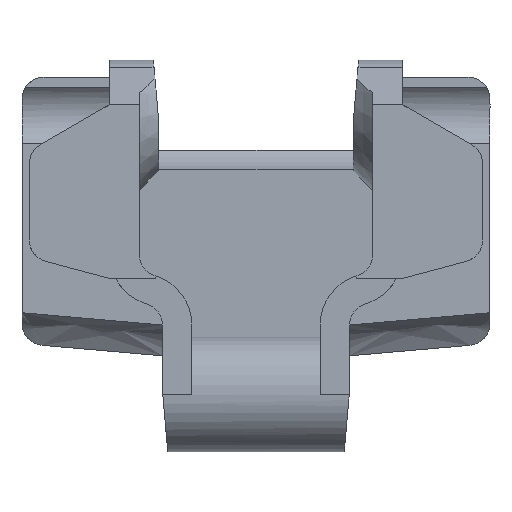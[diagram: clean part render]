
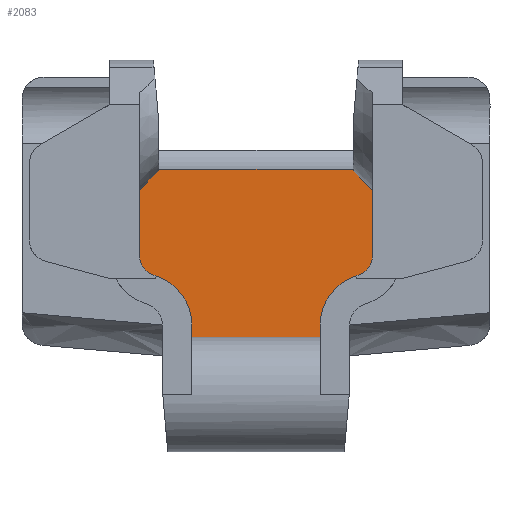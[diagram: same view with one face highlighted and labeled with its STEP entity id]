
A CAD part, front view. The second image highlights one B-rep face of the part: STEP entity #2083.
In plain terms, the highlighted planar face has unit normal (0, -1, 0).
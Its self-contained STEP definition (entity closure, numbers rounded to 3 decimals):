
#64 = VERTEX_POINT ( 'NONE', #2393 ) ;
#67 = VERTEX_POINT ( 'NONE', #2411 ) ;
#68 = EDGE_CURVE ( 'NONE', #64, #67, #2375, .T. ) ;
#147 = VERTEX_POINT ( 'NONE', #2688 ) ;
#148 = VERTEX_POINT ( 'NONE', #2802 ) ;
#152 = EDGE_CURVE ( 'NONE', #147, #148, #2797, .T. ) ;
#1419 = AXIS2_PLACEMENT_3D ( 'NONE', #1488, #1487, #1486 ) ;
#1420 = AXIS2_PLACEMENT_3D ( 'NONE', #1485, #1484, #1483 ) ;
#1422 = DIRECTION ( 'NONE',  ( 0., 0., 1. ) ) ;
#1423 = VECTOR ( 'NONE', #1422, 1000. ) ;
#1424 = CARTESIAN_POINT ( 'NONE',  ( 13.7, -4., 23.889 ) ) ;
#1426 = CARTESIAN_POINT ( 'NONE',  ( -15.842, -4., 26.764 ) ) ;
#1427 = CARTESIAN_POINT ( 'NONE',  ( 8.7, -4., 17.181 ) ) ;
#1431 = CARTESIAN_POINT ( 'NONE',  ( -15.842, -4., 26.764 ) ) ;
#1432 = CARTESIAN_POINT ( 'NONE',  ( -13.7, -4., 23.889 ) ) ;
#1433 = CARTESIAN_POINT ( 'NONE',  ( -15.842, -4., 36.083 ) ) ;
#1434 = CIRCLE ( 'NONE', #1419, 3. ) ;
#1435 = LINE ( 'NONE', #1426, #1423 ) ;
#1436 = DIRECTION ( 'NONE',  ( 0., 0., 1. ) ) ;
#1437 = VECTOR ( 'NONE', #1436, 1000. ) ;
#1438 = CARTESIAN_POINT ( 'NONE',  ( 13.2, -4., 41.91 ) ) ;
#1439 = CIRCLE ( 'NONE', #1420, 7. ) ;
#1443 = LINE ( 'NONE', #1438, #1437 ) ;
#1483 = DIRECTION ( 'NONE',  ( 0., 0., -1. ) ) ;
#1484 = DIRECTION ( 'NONE',  ( 0., -1., 0. ) ) ;
#1485 = CARTESIAN_POINT ( 'NONE',  ( -15.7, -4., 17.181 ) ) ;
#1486 = DIRECTION ( 'NONE',  ( 0., 0., -1. ) ) ;
#1487 = DIRECTION ( 'NONE',  ( 0., 1., 0. ) ) ;
#1488 = CARTESIAN_POINT ( 'NONE',  ( -12.842, -4., 26.764 ) ) ;
#1833 = DIRECTION ( 'NONE',  ( 1., 0., 0. ) ) ;
#1834 = VECTOR ( 'NONE', #1833, 1000. ) ;
#1838 = CARTESIAN_POINT ( 'NONE',  ( 13.2, -4., 38.967 ) ) ;
#1843 = CARTESIAN_POINT ( 'NONE',  ( 500000., -4., 38.967 ) ) ;
#1844 = LINE ( 'NONE', #1843, #1834 ) ;
#1898 = CARTESIAN_POINT ( 'NONE',  ( -15.842, -4., 36.083 ) ) ;
#1899 = CARTESIAN_POINT ( 'NONE',  ( -14.951, -4., 37.033 ) ) ;
#1900 = CARTESIAN_POINT ( 'NONE',  ( -14.066, -4., 37.99 ) ) ;
#1901 = CARTESIAN_POINT ( 'NONE',  ( -13.202, -4., 38.967 ) ) ;
#1903 = B_SPLINE_CURVE_WITH_KNOTS ( 'NONE', 3,
 ( #1901, #1900, #1899, #1898 ),
 .UNSPECIFIED., .F., .F.,
 ( 4, 4 ),
 ( 0., 0.004 ),
 .UNSPECIFIED. ) ;
#1904 = CARTESIAN_POINT ( 'NONE',  ( 13.202, -4., 38.967 ) ) ;
#1915 = DIRECTION ( 'NONE',  ( 0., 0., -1. ) ) ;
#1916 = VECTOR ( 'NONE', #1915, 1000. ) ;
#1917 = CARTESIAN_POINT ( 'NONE',  ( -13.2, -4., 41.91 ) ) ;
#1918 = DIRECTION ( 'NONE',  ( 1., 0., 0. ) ) ;
#1919 = VECTOR ( 'NONE', #1918, 1000. ) ;
#1920 = CARTESIAN_POINT ( 'NONE',  ( -13.2, -4., 38.332 ) ) ;
#1924 = CARTESIAN_POINT ( 'NONE',  ( -13.2, -4., 38.332 ) ) ;
#1925 = CARTESIAN_POINT ( 'NONE',  ( 13.202, -4., 38.967 ) ) ;
#1926 = CARTESIAN_POINT ( 'NONE',  ( 14.066, -4., 37.99 ) ) ;
#1927 = CARTESIAN_POINT ( 'NONE',  ( 14.951, -4., 37.033 ) ) ;
#1928 = CARTESIAN_POINT ( 'NONE',  ( 15.842, -4., 36.083 ) ) ;
#1940 = LINE ( 'NONE', #1920, #1919 ) ;
#1942 = B_SPLINE_CURVE_WITH_KNOTS ( 'NONE', 3,
 ( #1928, #1927, #1926, #1925 ),
 .UNSPECIFIED., .F., .F.,
 ( 4, 4 ),
 ( 0., 0.004 ),
 .UNSPECIFIED. ) ;
#1943 = CARTESIAN_POINT ( 'NONE',  ( 15.842, -4., 36.083 ) ) ;
#1947 = LINE ( 'NONE', #1917, #1916 ) ;
#1955 = CARTESIAN_POINT ( 'NONE',  ( -8.7, -4., 17.181 ) ) ;
#2072 = EDGE_CURVE ( 'NONE', #2322, #2084, #2921, .T. ) ;
#2081 = ORIENTED_EDGE ( 'NONE', *, *, #2362, .F. ) ;
#2082 = ORIENTED_EDGE ( 'NONE', *, *, #2331, .F. ) ;
#2083 = ADVANCED_FACE ( 'NONE', ( #2963 ), #2895, .T. ) ;
#2084 = VERTEX_POINT ( 'NONE', #2894 ) ;
#2151 = ORIENTED_EDGE ( 'NONE', *, *, #2152, .F. ) ;
#2152 = EDGE_CURVE ( 'NONE', #2084, #2293, #3148, .T. ) ;
#2203 = VERTEX_POINT ( 'NONE', #3176 ) ;
#2204 = EDGE_CURVE ( 'NONE', #64, #2330, #3222, .T. ) ;
#2205 = EDGE_CURVE ( 'NONE', #2297, #67, #3169, .T. ) ;
#2206 = ORIENTED_EDGE ( 'NONE', *, *, #2204, .F. ) ;
#2207 = ORIENTED_EDGE ( 'NONE', *, *, #2209, .F. ) ;
#2208 = ORIENTED_EDGE ( 'NONE', *, *, #2205, .F. ) ;
#2209 = EDGE_CURVE ( 'NONE', #2293, #2297, #3170, .T. ) ;
#2280 = EDGE_CURVE ( 'NONE', #2203, #2360, #1443, .T. ) ;
#2283 = ORIENTED_EDGE ( 'NONE', *, *, #68, .T. ) ;
#2287 = ORIENTED_EDGE ( 'NONE', *, *, #2292, .F. ) ;
#2288 = ORIENTED_EDGE ( 'NONE', *, *, #2333, .T. ) ;
#2289 = VERTEX_POINT ( 'NONE', #1431 ) ;
#2290 = VERTEX_POINT ( 'NONE', #1433 ) ;
#2291 = VERTEX_POINT ( 'NONE', #1432 ) ;
#2292 = EDGE_CURVE ( 'NONE', #2289, #2290, #1435, .T. ) ;
#2293 = VERTEX_POINT ( 'NONE', #1424 ) ;
#2294 = EDGE_CURVE ( 'NONE', #2291, #2289, #1434, .T. ) ;
#2295 = ORIENTED_EDGE ( 'NONE', *, *, #2294, .F. ) ;
#2296 = EDGE_CURVE ( 'NONE', #2330, #2291, #1439, .T. ) ;
#2297 = VERTEX_POINT ( 'NONE', #1427 ) ;
#2320 = ORIENTED_EDGE ( 'NONE', *, *, #2321, .T. ) ;
#2321 = EDGE_CURVE ( 'NONE', #2322, #2339, #1942, .T. ) ;
#2322 = VERTEX_POINT ( 'NONE', #1943 ) ;
#2327 = ORIENTED_EDGE ( 'NONE', *, *, #2332, .F. ) ;
#2328 = VERTEX_POINT ( 'NONE', #1924 ) ;
#2329 = ORIENTED_EDGE ( 'NONE', *, *, #2280, .F. ) ;
#2330 = VERTEX_POINT ( 'NONE', #1955 ) ;
#2331 = EDGE_CURVE ( 'NONE', #2328, #2203, #1940, .T. ) ;
#2332 = EDGE_CURVE ( 'NONE', #147, #2328, #1947, .T. ) ;
#2333 = EDGE_CURVE ( 'NONE', #148, #2290, #1903, .T. ) ;
#2334 = ORIENTED_EDGE ( 'NONE', *, *, #2296, .F. ) ;
#2339 = VERTEX_POINT ( 'NONE', #1904 ) ;
#2351 = ORIENTED_EDGE ( 'NONE', *, *, #152, .T. ) ;
#2352 = EDGE_LOOP ( 'NONE', ( #2354, #2320, #2081, #2329, #2082, #2327, #2351, #2288, #2287, #2295, #2334, #2206, #2283, #2208, #2207, #2151 ) ) ;
#2354 = ORIENTED_EDGE ( 'NONE', *, *, #2072, .F. ) ;
#2360 = VERTEX_POINT ( 'NONE', #1838 ) ;
#2362 = EDGE_CURVE ( 'NONE', #2360, #2339, #1844, .T. ) ;
#2372 = DIRECTION ( 'NONE',  ( 1., 0., 0. ) ) ;
#2373 = VECTOR ( 'NONE', #2372, 1000. ) ;
#2374 = CARTESIAN_POINT ( 'NONE',  ( 8.7, -4., 14.532 ) ) ;
#2375 = LINE ( 'NONE', #2374, #2373 ) ;
#2393 = CARTESIAN_POINT ( 'NONE',  ( -8.7, -4., 14.532 ) ) ;
#2411 = CARTESIAN_POINT ( 'NONE',  ( 8.7, -4., 14.532 ) ) ;
#2688 = CARTESIAN_POINT ( 'NONE',  ( -13.2, -4., 38.967 ) ) ;
#2788 = DIRECTION ( 'NONE',  ( -1., 0., 0. ) ) ;
#2789 = VECTOR ( 'NONE', #2788, 1000. ) ;
#2793 = CARTESIAN_POINT ( 'NONE',  ( -500000., -4., 38.967 ) ) ;
#2797 = LINE ( 'NONE', #2793, #2789 ) ;
#2802 = CARTESIAN_POINT ( 'NONE',  ( -13.202, -4., 38.967 ) ) ;
#2894 = CARTESIAN_POINT ( 'NONE',  ( 15.842, -4., 26.764 ) ) ;
#2895 = PLANE ( 'NONE',  #2896 ) ;
#2896 = AXIS2_PLACEMENT_3D ( 'NONE', #2972, #2912, #2911 ) ;
#2911 = DIRECTION ( 'NONE',  ( 0., 0., -1. ) ) ;
#2912 = DIRECTION ( 'NONE',  ( 0., -1., 0. ) ) ;
#2921 = LINE ( 'NONE', #2983, #2982 ) ;
#2963 = FACE_OUTER_BOUND ( 'NONE', #2352, .T. ) ;
#2971 = DIRECTION ( 'NONE',  ( 0., 0., -1. ) ) ;
#2972 = CARTESIAN_POINT ( 'NONE',  ( 28.75, -4., 17.416 ) ) ;
#2982 = VECTOR ( 'NONE', #2971, 1000. ) ;
#2983 = CARTESIAN_POINT ( 'NONE',  ( 15.842, -4., 26.764 ) ) ;
#3100 = DIRECTION ( 'NONE',  ( 0., 1., 0. ) ) ;
#3137 = CARTESIAN_POINT ( 'NONE',  ( 12.842, -4., 26.764 ) ) ;
#3148 = CIRCLE ( 'NONE', #3157, 3. ) ;
#3156 = DIRECTION ( 'NONE',  ( 0., 0., 1. ) ) ;
#3157 = AXIS2_PLACEMENT_3D ( 'NONE', #3137, #3100, #3156 ) ;
#3168 = CARTESIAN_POINT ( 'NONE',  ( 8.7, -4., 0. ) ) ;
#3169 = LINE ( 'NONE', #3168, #3218 ) ;
#3170 = CIRCLE ( 'NONE', #3216, 7. ) ;
#3176 = CARTESIAN_POINT ( 'NONE',  ( 13.2, -4., 38.332 ) ) ;
#3210 = DIRECTION ( 'NONE',  ( 0., 0., 1. ) ) ;
#3211 = DIRECTION ( 'NONE',  ( 0., -1., 0. ) ) ;
#3212 = CARTESIAN_POINT ( 'NONE',  ( 15.7, -4., 17.181 ) ) ;
#3216 = AXIS2_PLACEMENT_3D ( 'NONE', #3212, #3211, #3210 ) ;
#3217 = DIRECTION ( 'NONE',  ( 0., 0., -1. ) ) ;
#3218 = VECTOR ( 'NONE', #3217, 1000. ) ;
#3219 = DIRECTION ( 'NONE',  ( 0., 0., 1. ) ) ;
#3220 = VECTOR ( 'NONE', #3219, 1000. ) ;
#3221 = CARTESIAN_POINT ( 'NONE',  ( -8.7, -4., 0. ) ) ;
#3222 = LINE ( 'NONE', #3221, #3220 ) ;
